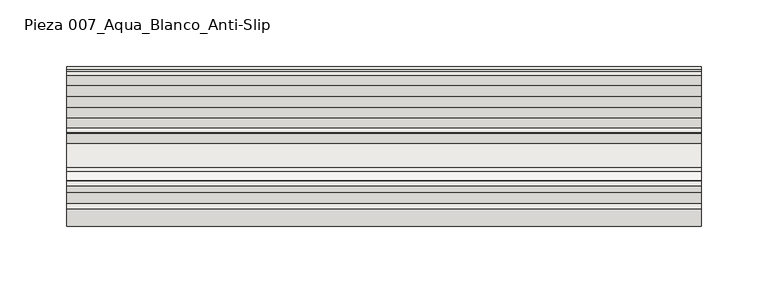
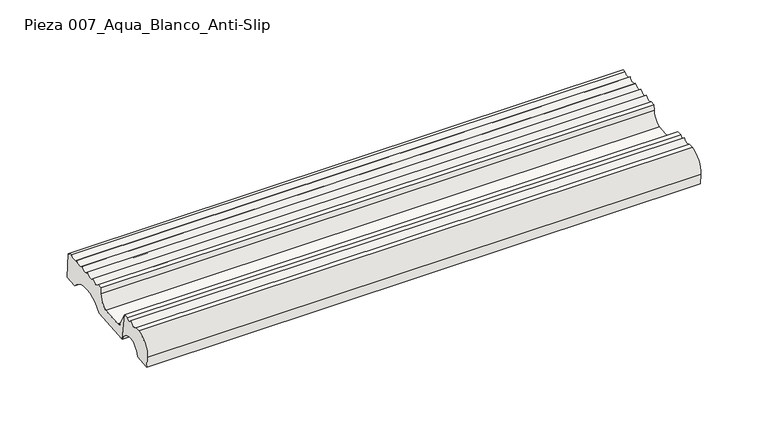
"""IFC4 building model written with IfcOpenShell, lengths in millimetres: slab geometry, ROSA GRES_007 : Pieza 007_Aqua_Blanco_Anti-Slip."""

from ifc_helpers import new_model, si_unit, point, frame, frame_2d, origin, place, context, project, spatial, polyline, circle_curve, trimmed, segment, composite_curve, outline, extrude, source, transform, mapped, element, save


def pieza_007_aqua_blanco_anti_slip_fd06c038(model_context):
    return source(origin(), model_context, "Body", "SweptSolid", [
        extrude(outline(composite_curve([segment(polyline([(14.3742659, 174.3159971), (0.6896004, 173.202129), (-0.0710994, 182.547869)]), True, "CONTINUOUS"), segment(trimmed(circle_curve(frame_2d((15.1536138, 183.7870899)), 15.2750633), [point((-0.0710994, 182.547869))], [point((12.7748841, 198.875801))], False, "CARTESIAN"), True, "CONTINUOUS"), segment(polyline([(12.7748841, 198.875801), (16.9364731, 199.1796191)]), True, "CONTINUOUS"), segment(trimmed(circle_curve(frame_2d((20.3008643, 202.7650351)), 4.9167404), [point((16.9364731, 199.1796191))], [point((24.7247274, 200.6193952))], True, "CARTESIAN"), True, "CONTINUOUS"), segment(trimmed(circle_curve(frame_2d((27.3971937, 201.142641)), 2.7232081), [point((24.7247274, 200.6193952))], [point((29.9345538, 200.1538709))], True, "CARTESIAN"), True, "CONTINUOUS"), segment(polyline([(29.9345538, 200.1538709), (33.8762309, 200.4746837), (37.1820416, 176.172444)]), True, "CONTINUOUS"), segment(trimmed(circle_curve(frame_2d((25.9545763, 173.0767428)), 11.6464304), [point((37.1820416, 176.172444))], [point((14.3742659, 174.3159971))], True, "CARTESIAN"), True, "CONTINUOUS")], self_intersect=False)), frame((0.0, 0.0, 0.0), z_axis=(1.0, 0.0, 0.0), x_axis=(0.0, 1.0, 0.0)), (0.0, 0.0, 1.0), 475.4755445),
        extrude(outline(composite_curve([segment(polyline([(71.8498608, 178.9942432), (37.1820416, 176.172444), (33.8762309, 200.4746837)]), True, "CONTINUOUS"), segment(trimmed(circle_curve(frame_2d((106.9597263, 233.2212806)), 80.084561), [point((33.8762309, 200.4746837))], [point((40.9402045, 187.8896178))], True, "CARTESIAN"), True, "CONTINUOUS"), segment(trimmed(circle_curve(frame_2d((43.5817022, 189.3117604)), 3.0), [point((40.9402045, 187.8896178))], [point((43.8250834, 186.3216491))], True, "CARTESIAN"), True, "CONTINUOUS"), segment(polyline([(43.8250834, 186.3216491), (61.867532, 187.7902205)]), True, "CONTINUOUS"), segment(trimmed(circle_curve(frame_2d((57.0579989, 199.0821231)), 12.2734948), [point((61.867532, 187.7902205))], [point((69.3023399, 198.236672))], True, "CARTESIAN"), True, "CONTINUOUS"), segment(polyline([(69.3023399, 198.236672), (69.6579726, 203.3871621), (73.3820924, 203.6902881)]), True, "CONTINUOUS"), segment(trimmed(circle_curve(frame_2d((76.8218788, 206.722806)), 4.5856619), [point((73.3820924, 203.6902881))], [point((81.0271834, 204.8942251))], True, "CARTESIAN"), True, "CONTINUOUS"), segment(trimmed(circle_curve(frame_2d((84.8780848, 207.3839748)), 4.5856619), [point((81.0271834, 204.8942251))], [point((89.0833894, 205.555394))], True, "CARTESIAN"), True, "CONTINUOUS"), segment(trimmed(circle_curve(frame_2d((92.9342908, 208.0451437)), 4.5856619), [point((89.0833894, 205.555394))], [point((97.1292049, 206.1928503))], True, "CARTESIAN"), True, "CONTINUOUS"), segment(trimmed(circle_curve(frame_2d((100.9933064, 209.1504161)), 4.8660534), [point((97.1292049, 206.1928503))], [point((105.2742048, 206.836894))], True, "CARTESIAN"), True, "CONTINUOUS"), segment(trimmed(circle_curve(frame_2d((109.1074243, 209.7932705)), 4.8408403), [point((105.2742048, 206.836894))], [point((113.0660814, 207.0070959))], True, "CARTESIAN"), True, "CONTINUOUS"), segment(polyline([(113.0660814, 207.0070959), (115.3491545, 207.1930072), (115.5338707, 204.9236084), (117.4809059, 205.0820876), (119.2900344, 182.8556525), (108.342302, 181.9645582)]), True, "CONTINUOUS"), segment(trimmed(circle_curve(frame_2d((91.1625174, 167.3774726)), 22.5372595), [point((108.342302, 181.9645582))], [point((71.8498608, 178.9942432))], True, "CARTESIAN"), True, "CONTINUOUS")], self_intersect=False)), frame((0.0, 0.0, 0.0), z_axis=(1.0, 0.0, 0.0), x_axis=(0.0, 1.0, 0.0)), (0.0, 0.0, 1.0), 475.4755445),
    ])


if __name__ == "__main__":
    model = new_model("IFC4")
    model_context = context("Model", 3, world=origin())
    ifc_project = project(units=[si_unit("LENGTHUNIT", "METRE", prefix="MILLI")], contexts=[model_context])
    site = spatial("IfcSite", under=ifc_project)
    building = spatial("IfcBuilding", under=site)
    placement = place(None, origin())
    pieza_007_aqua_blanco_anti_slip_shape = pieza_007_aqua_blanco_anti_slip_fd06c038(model_context)
    element("IfcSlab", 1, ObjectType="ROSA GRES_007 : Pieza 007_Aqua_Blanco_Anti-Slip", at=placement, inside=building, context=model_context, shape_type="MappedRepresentation", body=[
        mapped(pieza_007_aqua_blanco_anti_slip_shape, transform((0.0, 0.0, 0.0), x_axis=(1.0, 0.0, 0.0), y_axis=(0.0, 1.0, 0.0), z_axis=(0.0, 0.0, 1.0))),
    ])
    save(model, "model.ifc")
